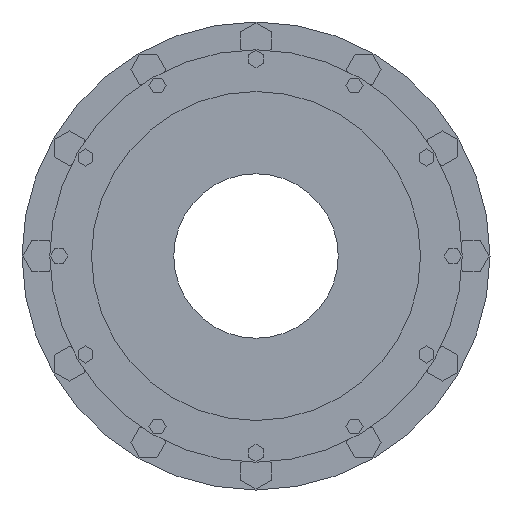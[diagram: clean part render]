
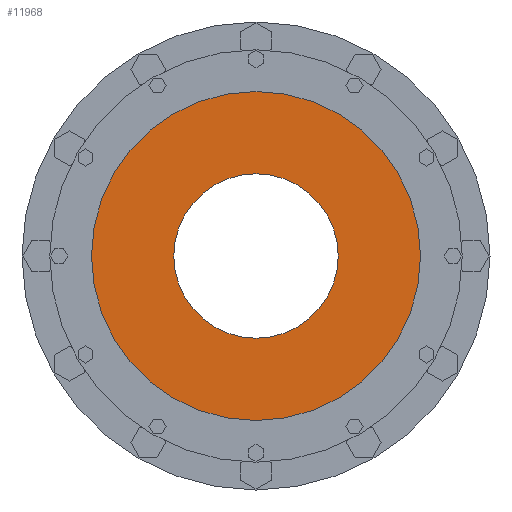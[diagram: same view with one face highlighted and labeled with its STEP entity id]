
A CAD part, left-side view. The second image highlights one B-rep face of the part: STEP entity #11968.
In plain terms, the highlighted planar face has unit normal (-1, 0, 0).
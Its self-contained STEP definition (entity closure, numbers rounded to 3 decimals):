
#11666=CARTESIAN_POINT('',(-472.5,0.,0.));
#11667=DIRECTION('',(1.,0.,0.));
#11668=DIRECTION('',(0.,1.,0.));
#11669=AXIS2_PLACEMENT_3D('',#11666,#11667,#11668);
#11745=CARTESIAN_POINT('',(-472.5,0.,0.));
#11746=DIRECTION('',(-1.,0.,0.));
#11747=DIRECTION('',(0.,1.,0.));
#11748=AXIS2_PLACEMENT_3D('',#11745,#11746,#11747);
#11750=CARTESIAN_POINT('',(-472.5,0.,0.));
#11751=DIRECTION('',(1.,0.,0.));
#11752=DIRECTION('',(0.,1.,0.));
#11753=AXIS2_PLACEMENT_3D('',#11750,#11751,#11752);
#11764=CARTESIAN_POINT('',(-472.5,0.,0.));
#11765=DIRECTION('',(-1.,0.,0.));
#11766=DIRECTION('',(0.,1.,0.));
#11767=AXIS2_PLACEMENT_3D('',#11764,#11765,#11766);
#11773=CARTESIAN_POINT('',(-472.5,177.5,0.));
#11774=CARTESIAN_POINT('',(-472.5,-177.5,0.));
#11775=VERTEX_POINT('',#11773);
#11776=VERTEX_POINT('',#11774);
#11777=CARTESIAN_POINT('',(-472.5,355.,0.));
#11778=CARTESIAN_POINT('',(-472.5,-355.,0.));
#11779=VERTEX_POINT('',#11777);
#11780=VERTEX_POINT('',#11778);
#11954=CARTESIAN_POINT('',(-472.5,0.,0.));
#11955=DIRECTION('',(1.,0.,0.));
#11956=DIRECTION('',(0.,-1.,0.));
#11957=AXIS2_PLACEMENT_3D('',#11954,#11955,#11956);
#11958=PLANE('',#11957);
#11959=ORIENTED_EDGE('',*,*,#11936,.F.);
#11960=ORIENTED_EDGE('',*,*,#11949,.T.);
#11961=EDGE_LOOP('',(#11959,#11960));
#11962=FACE_OUTER_BOUND('',#11961,.F.);
#11963=ORIENTED_EDGE('',*,*,#11814,.F.);
#11965=ORIENTED_EDGE('',*,*,#11964,.T.);
#11966=EDGE_LOOP('',(#11963,#11965));
#11967=FACE_BOUND('',#11966,.F.);
#11968=ADVANCED_FACE('',(#11962,#11967),#11958,.F.);
#11670=CIRCLE('',#11669,177.5);
#11749=CIRCLE('',#11748,355.);
#11754=CIRCLE('',#11753,355.);
#11768=CIRCLE('',#11767,177.5);
#11814=EDGE_CURVE('',#11775,#11776,#11670,.T.);
#11936=EDGE_CURVE('',#11779,#11780,#11749,.T.);
#11949=EDGE_CURVE('',#11779,#11780,#11754,.T.);
#11964=EDGE_CURVE('',#11775,#11776,#11768,.T.);
